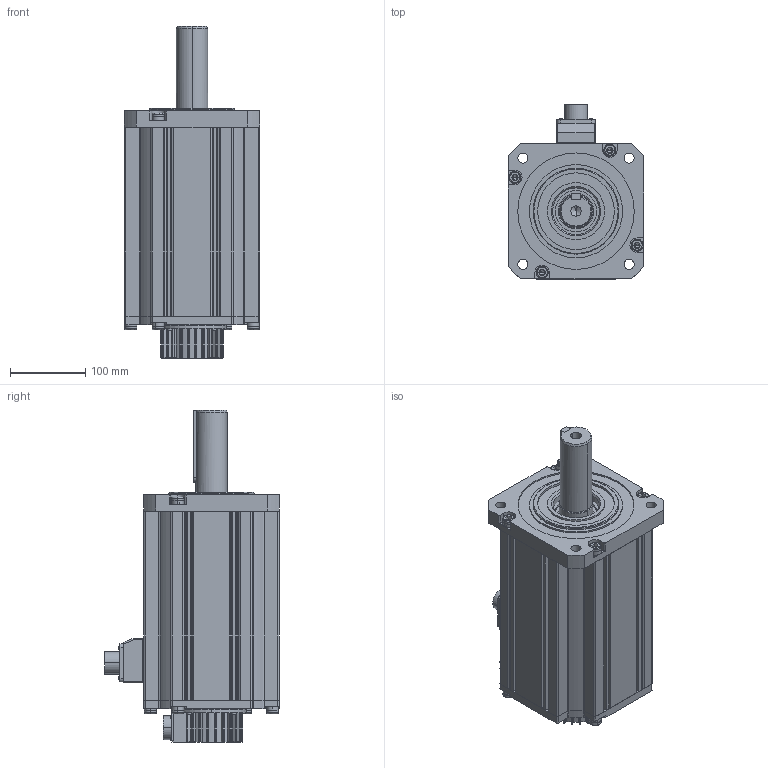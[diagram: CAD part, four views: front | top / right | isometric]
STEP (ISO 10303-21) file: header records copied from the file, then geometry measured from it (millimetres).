
FILE_DESCRIPTION (( 'STEP AP203' ), '1' );
FILE_NAME ('軞蚾芞.STEP', '2018-11-27T03:14:37', ( '1' ), ( 'MideaGroup IT' ), 'SwSTEP 2.0', 'SolidWorks 2012', '' );
FILE_SCHEMA (( 'CONFIG_CONTROL_DESIGN' ));
Products named in the file (21): 軞蚾芞; M2.6X7_GB_CROSS_SCREWS_TYPE3 M2.5X6-6-N; M3X10_GB_FASTENER_SCREWS_HSHCS M3X10-C; GB_HEXAGON_TYPE21 M10X16-16-N_GB_HEXAGON_TYPE21 M10X16-16-N; す瑩-12X8X96; hexagon socket head cap screws gb_GB_FASTENER_SCREWS_HSHCS M10X30-N; 130-綴裔; 綴裔躇猾菜; 晤鎢ん瑤脣; 侜督萇儂窒璃; 蛌赽軞傖; 綴傷裔-008; deep groove ball bearings gb_Rolling bearings 6209 GB 276-94; 蛌赽郪璃; 180-粣; 180-ヶ傷裔; 隅赽軞傖; 萇埭盄瑤脣; 180-瑤脣; 瑤脣釱躇猾菜; 180-儂褲
Assembly tree (44 placements, depth 5):
  軞蚾芞
    侜督萇儂窒璃
      隅赽軞傖
        180-儂褲
        瑤脣釱躇猾菜
        180-瑤脣
        萇埭盄瑤脣
      180-ヶ傷裔
      蛌赽軞傖
        蛌赽郪璃
          180-粣
        deep groove ball bearings gb_Rolling bearings 6209 GB 276-94
        綴傷裔-008
    晤鎢ん瑤脣
    綴裔躇猾菜
    130-綴裔
    hexagon socket head cap screws gb_GB_FASTENER_SCREWS_HSHCS M10X30-N  x8
    す瑩-12X8X96
    GB_HEXAGON_TYPE21 M10X16-16-N_GB_HEXAGON_TYPE21 M10X16-16-N  x8
    M3X10_GB_FASTENER_SCREWS_HSHCS M3X10-C  x4
    M2.6X7_GB_CROSS_SCREWS_TYPE3 M2.5X6-6-N  x8
Bounding box: 180 x 232 x 442 mm (x, y, z)
Volume: 6812419.8 mm3; surface area: 752079.1 mm2
Topology: 41 solids, 41 shells, 2212 faces, 5887 edges, 3774 vertices
Faces by surface type: plane 909, cylinder 796, bspline 155, sphere 138, torus 128, cone 86
Entity records: 65024 total; most frequent: CARTESIAN_POINT 19878, ORIENTED_EDGE 8906, DIRECTION 8769, EDGE_CURVE 4453, AXIS2_PLACEMENT_3D 3306, VERTEX_POINT 2901, VECTOR 2157, LINE 2157
